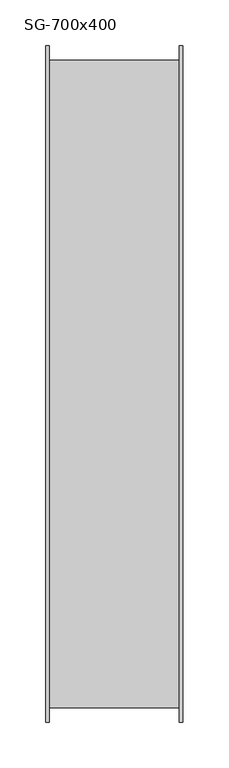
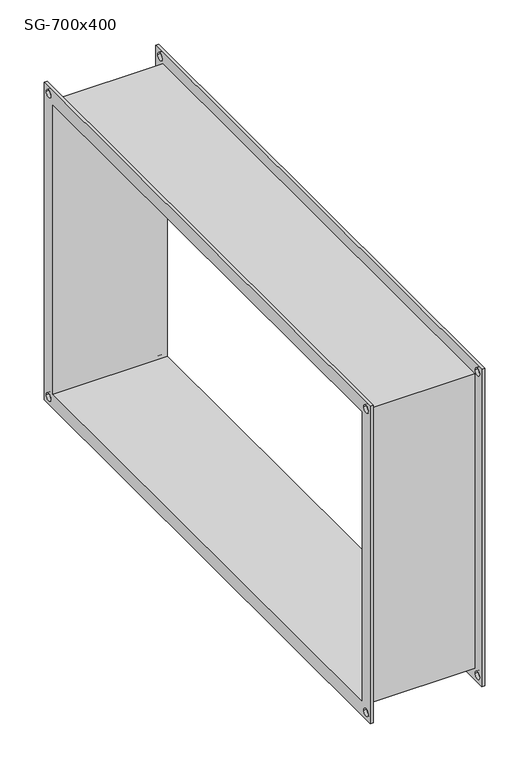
"""IFC4 building model written with IfcOpenShell, lengths in millimetres: damper geometry, СВ_ГибкаяВставка_КанальнаяПрямоугольная_200-1000_SG : SG-700x400."""

from ifc_helpers import new_model, si_unit, frame, origin, place, context, project, spatial, polyline, circle_curve, source, transform, mapped, element, save
from ifc_brep_helpers import plane_surface, revolved_surface, advanced_brep


def sg_700x400_2251ce74(model_context):
    return source(origin(), model_context, "Body", "AdvancedBrep", [
        advanced_brep(
        [(71.0, -354.0, 204.0), (-71.0, -354.0, 204.0), (-71.0, -354.0, -204.0), (71.0, -354.0, -204.0), (-71.0, 354.0, -204.0), (71.0, 354.0, -204.0), (-71.0, 354.0, 204.0), (71.0, 354.0, 204.0), (-75.0, -370.0, 220.0), (-75.0, 370.0, 220.0), (-75.0, 370.0, -220.0), (-75.0, -370.0, -220.0), (-75.0, -350.0, 200.0), (-75.0, -350.0, -200.0), (-75.0, 350.0, -200.0), (-75.0, 350.0, 200.0), (-75.0, 355.0, 210.0), (-75.0, 365.0, 210.0), (-75.0, 355.0, -210.0), (-75.0, 365.0, -210.0), (-75.0, -365.0, 210.0), (-75.0, -355.0, 210.0), (-75.0, -365.0, -210.0), (-75.0, -355.0, -210.0), (-71.0, -370.0, 220.0), (-71.0, -370.0, -220.0), (-71.0, 370.0, -220.0), (-71.0, 370.0, 220.0), (-71.0, 365.0, 210.0), (-71.0, 355.0, 210.0), (-71.0, 365.0, -210.0), (-71.0, 355.0, -210.0), (-71.0, -355.0, 210.0), (-71.0, -365.0, 210.0), (-71.0, -355.0, -210.0), (-71.0, -365.0, -210.0), (71.0, 370.0, 220.0), (71.0, 370.0, -220.0), (71.0, -370.0, -220.0), (71.0, -370.0, 220.0), (71.0, 355.0, 210.0), (71.0, 365.0, 210.0), (71.0, 355.0, -210.0), (71.0, 365.0, -210.0), (71.0, -365.0, 210.0), (71.0, -355.0, 210.0), (71.0, -365.0, -210.0), (71.0, -355.0, -210.0), (75.0, 370.0, 220.0), (75.0, -370.0, 220.0), (75.0, -370.0, -220.0), (75.0, 370.0, -220.0), (75.0, 350.0, 200.0), (75.0, 350.0, -200.0), (75.0, -350.0, -200.0), (75.0, -350.0, 200.0), (75.0, 365.0, 210.0), (75.0, 355.0, 210.0), (75.0, 365.0, -210.0), (75.0, 355.0, -210.0), (75.0, -355.0, 210.0), (75.0, -365.0, 210.0), (75.0, -355.0, -210.0), (75.0, -365.0, -210.0)],
        [
            (0, 1),
            (1, 2),
            (2, 3),
            (3, 0),
            (2, 4),
            (4, 5),
            (5, 3),
            (4, 6),
            (6, 7),
            (7, 5),
            (0, 7),
            (6, 1),
            (8, 9),
            (9, 10),
            (10, 11),
            (11, 8),
            (12, 13),
            (13, 14),
            (14, 15),
            (15, 12),
            (16, 17, circle_curve(frame((-75.0, 360.0, 210.0), z_axis=(1.0, 0.0, 0.0), x_axis=(0.0, 1.0, 0.0)), 5.0)),
            (17, 16, circle_curve(frame((-75.0, 360.0, 210.0), z_axis=(1.0, 0.0, 0.0), x_axis=(0.0, 1.0, 0.0)), 5.0)),
            (18, 19, circle_curve(frame((-75.0, 360.0, -210.0), z_axis=(1.0, 0.0, 0.0), x_axis=(0.0, 1.0, 0.0)), 5.0)),
            (19, 18, circle_curve(frame((-75.0, 360.0, -210.0), z_axis=(1.0, 0.0, 0.0), x_axis=(0.0, 1.0, 0.0)), 5.0)),
            (20, 21, circle_curve(frame((-75.0, -360.0, 210.0), z_axis=(1.0, 0.0, 0.0), x_axis=(0.0, 1.0, 0.0)), 5.0)),
            (21, 20, circle_curve(frame((-75.0, -360.0, 210.0), z_axis=(1.0, 0.0, 0.0), x_axis=(0.0, 1.0, 0.0)), 5.0)),
            (22, 23, circle_curve(frame((-75.0, -360.0, -210.0), z_axis=(1.0, 0.0, 0.0), x_axis=(0.0, 1.0, 0.0)), 5.0)),
            (23, 22, circle_curve(frame((-75.0, -360.0, -210.0), z_axis=(1.0, 0.0, 0.0), x_axis=(0.0, 1.0, 0.0)), 5.0)),
            (24, 25),
            (25, 26),
            (26, 27),
            (27, 24),
            (28, 29, circle_curve(frame((-71.0, 360.0, 210.0), z_axis=(-1.0, 0.0, 0.0), x_axis=(0.0, 1.0, 0.0)), 5.0)),
            (29, 28, circle_curve(frame((-71.0, 360.0, 210.0), z_axis=(-1.0, 0.0, 0.0), x_axis=(0.0, 1.0, 0.0)), 5.0)),
            (30, 31, circle_curve(frame((-71.0, 360.0, -210.0), z_axis=(-1.0, 0.0, 0.0), x_axis=(0.0, 1.0, 0.0)), 5.0)),
            (31, 30, circle_curve(frame((-71.0, 360.0, -210.0), z_axis=(-1.0, 0.0, 0.0), x_axis=(0.0, 1.0, 0.0)), 5.0)),
            (32, 33, circle_curve(frame((-71.0, -360.0, 210.0), z_axis=(-1.0, 0.0, 0.0), x_axis=(0.0, 1.0, 0.0)), 5.0)),
            (33, 32, circle_curve(frame((-71.0, -360.0, 210.0), z_axis=(-1.0, 0.0, 0.0), x_axis=(0.0, 1.0, 0.0)), 5.0)),
            (34, 35, circle_curve(frame((-71.0, -360.0, -210.0), z_axis=(-1.0, 0.0, 0.0), x_axis=(0.0, 1.0, 0.0)), 5.0)),
            (35, 34, circle_curve(frame((-71.0, -360.0, -210.0), z_axis=(-1.0, 0.0, 0.0), x_axis=(0.0, 1.0, 0.0)), 5.0)),
            (11, 25),
            (24, 8),
            (10, 26),
            (9, 27),
            (36, 37),
            (37, 38),
            (38, 39),
            (39, 36),
            (40, 41, circle_curve(frame((71.0, 360.0, 210.0), z_axis=(1.0, 0.0, 0.0), x_axis=(0.0, 1.0, 0.0)), 5.0)),
            (41, 40, circle_curve(frame((71.0, 360.0, 210.0), z_axis=(1.0, 0.0, 0.0), x_axis=(0.0, 1.0, 0.0)), 5.0)),
            (42, 43, circle_curve(frame((71.0, 360.0, -210.0), z_axis=(1.0, 0.0, 0.0), x_axis=(0.0, 1.0, 0.0)), 5.0)),
            (43, 42, circle_curve(frame((71.0, 360.0, -210.0), z_axis=(1.0, 0.0, 0.0), x_axis=(0.0, 1.0, 0.0)), 5.0)),
            (44, 45, circle_curve(frame((71.0, -360.0, 210.0), z_axis=(1.0, 0.0, 0.0), x_axis=(0.0, 1.0, 0.0)), 5.0)),
            (45, 44, circle_curve(frame((71.0, -360.0, 210.0), z_axis=(1.0, 0.0, 0.0), x_axis=(0.0, 1.0, 0.0)), 5.0)),
            (46, 47, circle_curve(frame((71.0, -360.0, -210.0), z_axis=(1.0, 0.0, 0.0), x_axis=(0.0, 1.0, 0.0)), 5.0)),
            (47, 46, circle_curve(frame((71.0, -360.0, -210.0), z_axis=(1.0, 0.0, 0.0), x_axis=(0.0, 1.0, 0.0)), 5.0)),
            (48, 49),
            (49, 50),
            (50, 51),
            (51, 48),
            (52, 53),
            (53, 54),
            (54, 55),
            (55, 52),
            (56, 57, circle_curve(frame((75.0, 360.0, 210.0), z_axis=(-1.0, 0.0, 0.0), x_axis=(0.0, 1.0, 0.0)), 5.0)),
            (57, 56, circle_curve(frame((75.0, 360.0, 210.0), z_axis=(-1.0, 0.0, 0.0), x_axis=(0.0, 1.0, 0.0)), 5.0)),
            (58, 59, circle_curve(frame((75.0, 360.0, -210.0), z_axis=(-1.0, 0.0, 0.0), x_axis=(0.0, 1.0, 0.0)), 5.0)),
            (59, 58, circle_curve(frame((75.0, 360.0, -210.0), z_axis=(-1.0, 0.0, 0.0), x_axis=(0.0, 1.0, 0.0)), 5.0)),
            (60, 61, circle_curve(frame((75.0, -360.0, 210.0), z_axis=(-1.0, 0.0, 0.0), x_axis=(0.0, 1.0, 0.0)), 5.0)),
            (61, 60, circle_curve(frame((75.0, -360.0, 210.0), z_axis=(-1.0, 0.0, 0.0), x_axis=(0.0, 1.0, 0.0)), 5.0)),
            (62, 63, circle_curve(frame((75.0, -360.0, -210.0), z_axis=(-1.0, 0.0, 0.0), x_axis=(0.0, 1.0, 0.0)), 5.0)),
            (63, 62, circle_curve(frame((75.0, -360.0, -210.0), z_axis=(-1.0, 0.0, 0.0), x_axis=(0.0, 1.0, 0.0)), 5.0)),
            (39, 49),
            (48, 36),
            (38, 50),
            (37, 51),
            (15, 52),
            (55, 12),
            (14, 53),
            (13, 54),
            (16, 29),
            (28, 17),
            (40, 57),
            (56, 41),
            (18, 31),
            (30, 19),
            (42, 59),
            (58, 43),
            (20, 33),
            (32, 21),
            (44, 61),
            (60, 45),
            (22, 35),
            (34, 23),
            (46, 63),
            (62, 47),
        ],
        [
            plane_surface(frame((71.0, -354.0, 204.0), z_axis=(0.0, -1.0, 0.0), x_axis=(-1.0, 0.0, 0.0))),
            plane_surface(frame((71.0, -354.0, -204.0), z_axis=(0.0, 0.0, -1.0), x_axis=(-1.0, 0.0, 0.0))),
            plane_surface(frame((71.0, 354.0, -204.0), z_axis=(0.0, 1.0, 0.0), x_axis=(-1.0, 0.0, 0.0))),
            plane_surface(frame((71.0, 354.0, 204.0), z_axis=(0.0, 0.0, 1.0), x_axis=(-1.0, 0.0, 0.0))),
            plane_surface(frame((-75.0, -370.0, 220.0), z_axis=(-1.0, 0.0, 0.0), x_axis=(0.0, 0.0, 1.0))),
            plane_surface(frame((-71.0, -370.0, 220.0), z_axis=(1.0, 0.0, 0.0), x_axis=(0.0, 0.0, -1.0))),
            plane_surface(frame((-71.0, -370.0, 220.0), z_axis=(0.0, -1.0, 0.0), x_axis=(-1.0, 0.0, 0.0))),
            plane_surface(frame((-71.0, -370.0, -220.0), z_axis=(0.0, 0.0, -1.0), x_axis=(-1.0, 0.0, 0.0))),
            plane_surface(frame((-71.0, 370.0, -220.0), z_axis=(0.0, 1.0, 0.0), x_axis=(-1.0, 0.0, 0.0))),
            plane_surface(frame((-71.0, 370.0, 220.0), z_axis=(0.0, 0.0, 1.0), x_axis=(-1.0, 0.0, 0.0))),
            plane_surface(frame((71.0, 350.0, -200.0), z_axis=(-1.0, 0.0, 0.0), x_axis=(0.0, 0.0, 1.0))),
            plane_surface(frame((75.0, 350.0, -200.0), z_axis=(1.0, 0.0, 0.0), x_axis=(0.0, 0.0, -1.0))),
            plane_surface(frame((75.0, 370.0, 220.0), z_axis=(0.0, 0.0, 1.0), x_axis=(-1.0, 0.0, 0.0))),
            plane_surface(frame((75.0, -370.0, 220.0), z_axis=(0.0, -1.0, 0.0), x_axis=(-1.0, 0.0, 0.0))),
            plane_surface(frame((75.0, -370.0, -220.0), z_axis=(0.0, 0.0, -1.0), x_axis=(-1.0, 0.0, 0.0))),
            plane_surface(frame((75.0, 370.0, -220.0), z_axis=(0.0, 1.0, 0.0), x_axis=(-1.0, 0.0, 0.0))),
            plane_surface(frame((-71.0, -350.0, 200.0), z_axis=(0.0, 0.0, -1.0), x_axis=(-1.0, 0.0, 0.0))),
            plane_surface(frame((-71.0, 350.0, 200.0), z_axis=(0.0, -1.0, 0.0), x_axis=(-1.0, 0.0, 0.0))),
            plane_surface(frame((-71.0, 350.0, -200.0), z_axis=(0.0, 0.0, 1.0), x_axis=(-1.0, 0.0, 0.0))),
            plane_surface(frame((-71.0, -350.0, -200.0), z_axis=(0.0, 1.0, 0.0), x_axis=(-1.0, 0.0, 0.0))),
            revolved_surface(polyline([(-71.0, 365.0, 210.0), (-75.0, 365.0, 210.0)]), (-75.0, 360.0, 210.0), (1.0, 0.0, 0.0)),
            revolved_surface(polyline([(75.0, 365.0, 210.0), (71.0, 365.0, 210.0)]), (-75.0, 360.0, 210.0), (1.0, 0.0, 0.0)),
            revolved_surface(polyline([(-71.0, 365.0, -210.0), (-75.0, 365.0, -210.0)]), (0.0, 360.0, -210.0), (1.0, 0.0, 0.0)),
            revolved_surface(polyline([(75.0, 365.0, -210.0), (71.0, 365.0, -210.0)]), (0.0, 360.0, -210.0), (1.0, 0.0, 0.0)),
            revolved_surface(polyline([(-71.0, -355.0, 210.0), (-75.0, -355.0, 210.0)]), (0.0, -360.0, 210.0), (1.0, 0.0, 0.0)),
            revolved_surface(polyline([(75.0, -355.0, 210.0), (71.0, -355.0, 210.0)]), (0.0, -360.0, 210.0), (1.0, 0.0, 0.0)),
            revolved_surface(polyline([(-71.0, -355.0, -210.0), (-75.0, -355.0, -210.0)]), (0.0, -360.0, -210.0), (1.0, 0.0, 0.0)),
            revolved_surface(polyline([(75.0, -355.0, -210.0), (71.0, -355.0, -210.0)]), (0.0, -360.0, -210.0), (1.0, 0.0, 0.0)),
        ],
        [
            (0, [[1, 2, 3, 4]]),
            (1, [[-3, 5, 6, 7]]),
            (2, [[-6, 8, 9, 10]]),
            (3, [[-1, 11, -9, 12]]),
            (4, [[13, 14, 15, 16], [17, 18, 19, 20], [21, 22], [23, 24], [25, 26], [27, 28]]),
            (5, [[29, 30, 31, 32], [-2, -12, -8, -5], [33, 34], [35, 36], [37, 38], [39, 40]]),
            (6, [[-16, 41, -29, 42]]),
            (7, [[-15, 43, -30, -41]]),
            (8, [[-14, 44, -31, -43]]),
            (9, [[-13, -42, -32, -44]]),
            (10, [[45, 46, 47, 48], [-4, -7, -10, -11], [49, 50], [51, 52], [53, 54], [55, 56]]),
            (11, [[57, 58, 59, 60], [61, 62, 63, 64], [65, 66], [67, 68], [69, 70], [71, 72]]),
            (12, [[-48, 73, -57, 74]]),
            (13, [[-47, 75, -58, -73]]),
            (14, [[-46, 76, -59, -75]]),
            (15, [[-45, -74, -60, -76]]),
            (16, [[-20, 77, -64, 78]]),
            (17, [[-77, -19, 79, -61]]),
            (18, [[-79, -18, 80, -62]]),
            (19, [[-80, -17, -78, -63]]),
            (20, [[81, -33, 82, -21]]),
            (21, [[83, -65, 84, -49]]),
            (20, [[-81, -22, -82, -34]]),
            (21, [[-83, -50, -84, -66]]),
            (22, [[85, -35, 86, -23]]),
            (23, [[87, -67, 88, -51]]),
            (22, [[-85, -24, -86, -36]]),
            (23, [[-87, -52, -88, -68]]),
            (24, [[89, -37, 90, -25]]),
            (25, [[91, -69, 92, -53]]),
            (24, [[-89, -26, -90, -38]]),
            (25, [[-91, -54, -92, -70]]),
            (26, [[93, -39, 94, -27]]),
            (27, [[95, -71, 96, -55]]),
            (26, [[-93, -28, -94, -40]]),
            (27, [[-95, -56, -96, -72]]),
        ],
    ),
    ])


if __name__ == "__main__":
    model = new_model("IFC4")
    model_context = context("Model", 3, world=origin())
    ifc_project = project(units=[si_unit("LENGTHUNIT", "METRE", prefix="MILLI")], contexts=[model_context])
    site = spatial("IfcSite", under=ifc_project)
    building = spatial("IfcBuilding", under=site)
    placement = place(None, origin())
    sg_700x400_shape = sg_700x400_2251ce74(model_context)
    element("IfcDamper", 1, ObjectType="СВ_ГибкаяВставка_КанальнаяПрямоугольная_200-1000_SG : SG-700x400", at=placement, inside=building, context=model_context, shape_type="MappedRepresentation", body=[
        mapped(sg_700x400_shape, transform((0.0, 0.0, 0.0), x_axis=(1.0, 0.0, 0.0), y_axis=(0.0, 1.0, 0.0), z_axis=(0.0, 0.0, 1.0))),
    ])
    save(model, "model.ifc")
